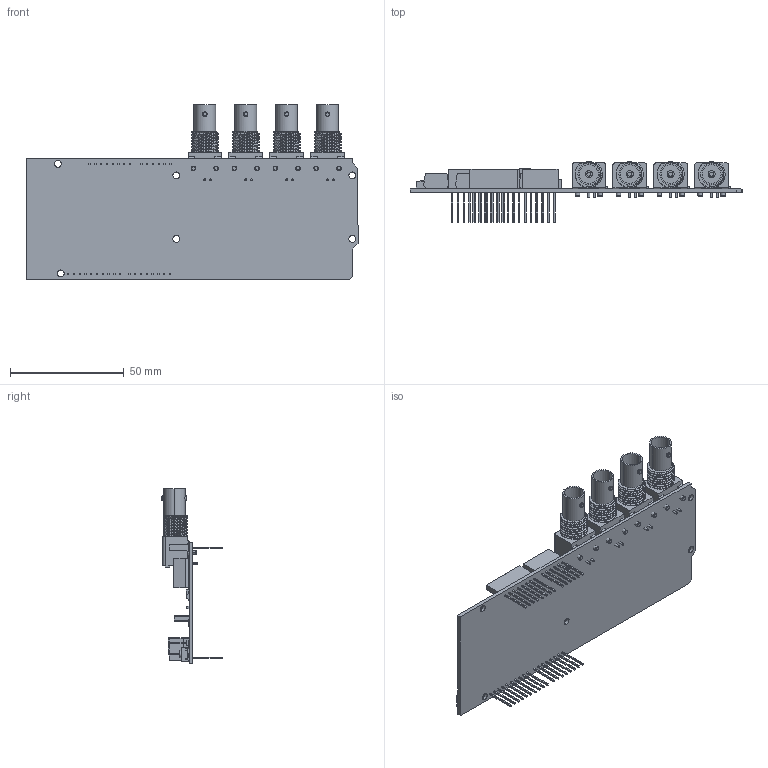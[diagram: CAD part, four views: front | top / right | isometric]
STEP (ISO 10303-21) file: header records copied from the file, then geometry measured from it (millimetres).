
FILE_DESCRIPTION (( 'STEP AP203' ), '1' );
FILE_NAME ('Baugruppe_tentacle_shield.STEP', '2018-08-14T13:48:57', ( '' ), ( '' ), 'SwSTEP 2.0', 'SolidWorks 2017', '' );
FILE_SCHEMA (( 'CONFIG_CONTROL_DESIGN' ));
Length unit declared in the file: millimetre
Products named in the file (9): Lot4; pinabdeckung; tentacle_shield; recom; bEhdO; reset_switch; Lot4lang; bnc connector; Baugruppe_tentacle_shield
Assembly tree (28 placements, depth 2):
  Baugruppe_tentacle_shield
    tentacle_shield
    reset_switch
    bnc connector  x4
    recom  x4
    Lot4  x4
    Lot4lang
    bEhdO  x4
    pinabdeckung  x9
Bounding box: 146 x 26.6 x 76.8 mm (x, y, z)
Volume: 32083.9 mm3; surface area: 38867.1 mm2
Topology: 212 solids, 212 shells, 2789 faces, 6689 edges, 4394 vertices
Faces by surface type: plane 2239, cylinder 386, bspline 100, torus 64
Entity records: 58535 total; most frequent: CARTESIAN_POINT 19387, ORIENTED_EDGE 7768, DIRECTION 7297, EDGE_CURVE 3884, LINE 3457, VECTOR 3457, VERTEX_POINT 2538, AXIS2_PLACEMENT_3D 1920
